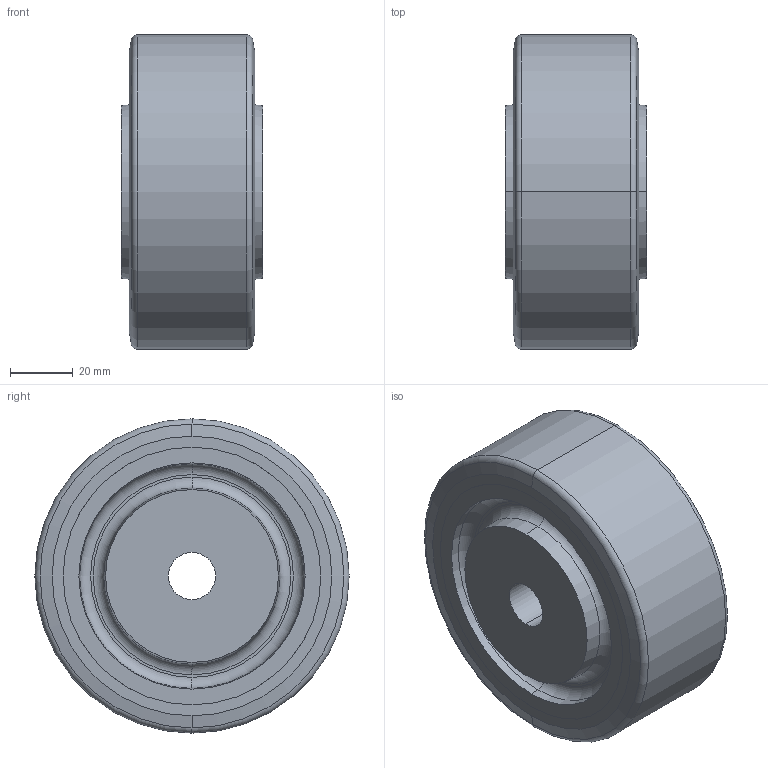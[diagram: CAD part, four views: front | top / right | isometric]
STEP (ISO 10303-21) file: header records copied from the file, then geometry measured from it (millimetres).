
FILE_DESCRIPTION (( 'STEP AP214' ), '1' );
FILE_NAME ('22887-100-B-A.step', '2024-10-28T09:26:48', ( '' ), ( '' ), 'SwSTEP 2.0', 'SolidWorks 2022', '' );
FILE_SCHEMA (( 'AUTOMOTIVE_DESIGN' ));
Length unit declared in the file: millimetre
Products named in the file (1): 22887-100-B-A
Bounding box: 45 x 100 x 100 mm (x, y, z)
Volume: 299295.4 mm3; surface area: 33353.9 mm2
Topology: 1 solids, 1 shells, 46 faces, 92 edges, 56 vertices
Faces by surface type: cylinder 12, cone 12, torus 12, plane 10
Entity records: 1430 total; most frequent: DIRECTION 254, CARTESIAN_POINT 195, ORIENTED_EDGE 184, AXIS2_PLACEMENT_3D 115, EDGE_CURVE 92, CIRCLE 68, EDGE_LOOP 56, VERTEX_POINT 56
